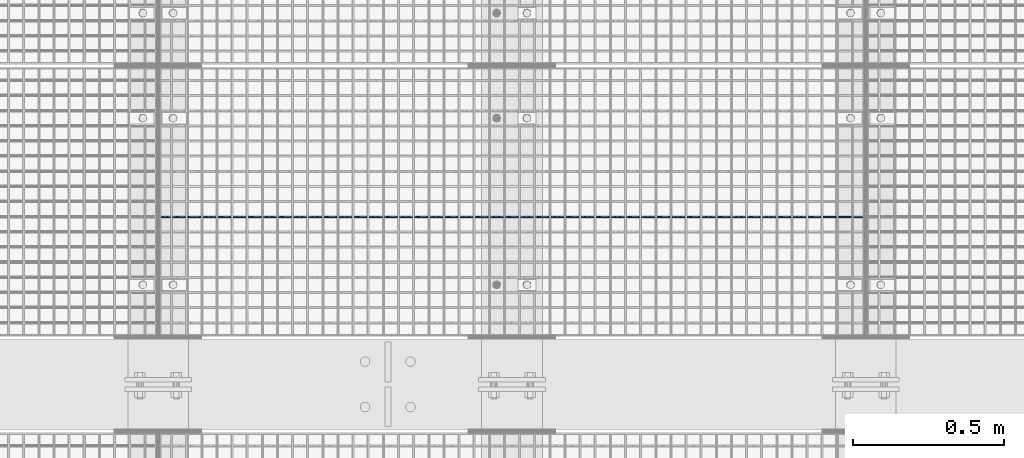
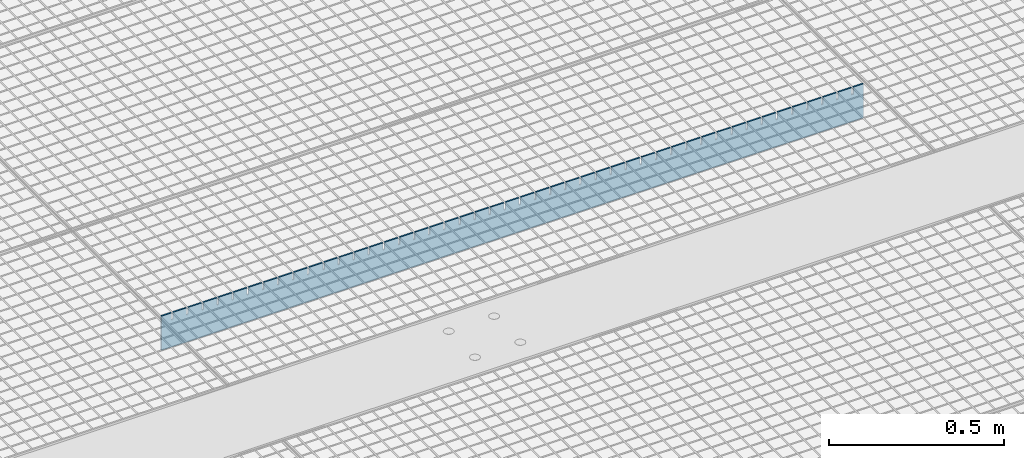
# One storey, part 355 of 1530: 1 beam.
"""IFC2X3 building model written with IfcOpenShell, lengths in millimetres."""

from ifc_helpers import new_model, si_unit, frame, origin_with_axes, place, context, subcontext, project, spatial, faceted_brep, material, type_object, element, save


model = new_model("IFC2X3")

# Units and contexts
model_context = context("Model", 3, precision=1e-05, world=origin_with_axes())
body_context = subcontext(model_context, "Body", "Model", "MODEL_VIEW")
ifc_project = project(units=[si_unit("LENGTHUNIT", "METRE", prefix="MILLI"), si_unit("AREAUNIT", "SQUARE_METRE"), si_unit("VOLUMEUNIT", "CUBIC_METRE"), si_unit("MASSUNIT", "GRAM", prefix="KILO"), si_unit("TIMEUNIT", "SECOND"), si_unit("PLANEANGLEUNIT", "RADIAN"), si_unit("SOLIDANGLEUNIT", "STERADIAN"), si_unit("THERMODYNAMICTEMPERATUREUNIT", "DEGREE_CELSIUS"), si_unit("LUMINOUSINTENSITYUNIT", "LUMEN")], contexts=[model_context])

# Site, building, storey
site_placement = place(None, origin_with_axes())
site = spatial("IfcSite", under=ifc_project, at=site_placement, Name="Brattvåg", CompositionType="ELEMENT")
building_placement = place(site_placement, origin_with_axes())
building = spatial("IfcBuilding", under=site, at=building_placement, Name="Undefined", CompositionType="ELEMENT")
storey_placement = place(building_placement, origin_with_axes())
storey = spatial("IfcBuildingStorey", under=building, at=storey_placement, Name="Undefined", CompositionType="ELEMENT", Elevation=0.0)

# Beam
ifc_material = material(Name="STEEL/S355J2")
beam_type = type_object("IfcBeamType", Name="120*5", PredefinedType="NOTDEFINED")
beam_placement = place(storey_placement, frame((7570.01317977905, 3552.9952545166, -59.9998626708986), z_axis=(0.0, 0.0, 1.0), x_axis=(-1.0, 1.99999855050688e-09, 0.0)))
element("IfcBeam", 1, at=beam_placement, inside=storey, type_object=beam_type, material=ifc_material, Name="GRATING", context=body_context, shape_type="Brep", body=[
    faceted_brep([(83.5790367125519, -2.50000000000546, 60.0000722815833), (83.5790367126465, -2.50000000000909, 35.0001373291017), (83.5790367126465, 2.50022888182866, 35.0001373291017), (83.5790367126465, 2.5, 60.0), (88.5790367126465, -2.50000000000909, 35.0001373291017), (88.5790367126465, 2.50022888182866, 35.0001373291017), (88.5790367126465, -2.50000000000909, 60.0001373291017), (88.5790367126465, 2.5, 60.0), (38.6284370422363, -2.50000000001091, 60.0001373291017), (38.6284370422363, 2.5, 60.0), (38.6284370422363, 2.49999999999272, 35.0001373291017), (38.6284370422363, -2.50000000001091, 35.0001373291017), (33.6284370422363, 2.49999999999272, 35.0001373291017), (33.6284370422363, -2.50000000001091, 35.0001373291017), (33.6284370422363, -2.5, 60.0), (33.6284370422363, 2.5, 60.0), (0.0, 2.5, 60.0), (0.0, -2.5, 60.0), (0.0, -2.5, -60.0), (0.0, 2.5, -60.0), (2319.99865722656, 2.5, -60.0), (2319.99865722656, -2.5, -60.0), (2319.99865722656, -2.5, 60.0), (2319.99865722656, 2.5, 60.0), (2286.37871932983, 2.5, 60.0), (2286.37871932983, -2.50000000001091, 60.0001373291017), (2286.37871932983, 2.49999999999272, 35.0001373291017), (2286.37871932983, -2.50000000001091, 35.0001373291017), (2281.37871932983, 2.49999999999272, 35.0001373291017), (2281.37871932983, -2.50000000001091, 35.0001373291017), (2281.37871932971, -2.50000000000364, 60.0000634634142), (2281.37871932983, 2.5, 60.0), (2236.42859649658, 2.5, 60.0), (2236.42859649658, -2.50000000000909, 60.0001373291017), (2236.42859649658, 2.50022888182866, 35.0001373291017), (2236.42859649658, -2.50000000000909, 35.0001373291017), (2231.42859649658, 2.50022888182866, 35.0001373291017), (2231.42859649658, -2.50000000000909, 35.0001373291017), (2231.42859649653, -2.50000000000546, 60.0000910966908), (2231.42859649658, 2.5, 60.0), (2186.47847366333, 2.5, 60.0), (2186.47847366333, -2.50000000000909, 60.0001373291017), (2186.47847366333, 2.50022888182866, 35.0001373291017), (2186.47847366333, -2.50000000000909, 35.0001373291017), (2181.47847366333, 2.50022888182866, 35.0001373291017), (2181.47847366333, -2.50000000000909, 35.0001373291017), (2181.47847366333, -2.5, 60.0), (2181.47847366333, 2.5, 60.0), (2136.52882766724, 2.5, 60.0), (2136.52882766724, -2.50000000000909, 60.0001373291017), (2136.52882766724, 2.50022888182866, 35.0001373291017), (2136.52882766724, -2.50000000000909, 35.0001373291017), (2131.52882766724, 2.50022888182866, 35.0001373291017), (2131.52882766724, -2.50000000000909, 35.0001373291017), (2131.52882766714, -2.50000000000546, 60.0000722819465), (2131.52882766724, 2.5, 60.0), (2086.57870483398, 2.5, 60.0), (2086.57870483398, -2.50000000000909, 60.0001373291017), (2086.57870483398, 2.50022888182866, 35.0001373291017), (2086.57870483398, -2.50000000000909, 35.0001373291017), (2081.57870483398, 2.50022888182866, 35.0001373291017), (2081.57870483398, -2.50000000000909, 35.0001373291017), (2081.57870483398, -2.5, 60.0), (2081.57870483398, 2.5, 60.0), (2036.62858200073, 2.5, 60.0), (2036.62858200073, -2.50000000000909, 60.0001373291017), (2036.62858200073, 2.50022888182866, 35.0001373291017), (2036.62858200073, -2.50000000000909, 35.0001373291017), (2031.62858200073, 2.50022888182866, 35.0001373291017), (2031.62858200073, -2.50000000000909, 35.0001373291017), (2031.62858200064, -2.50000000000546, 60.0000722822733), (2031.62858200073, 2.5, 60.0), (1986.67845916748, 2.5, 60.0), (1986.67845916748, -2.50000000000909, 60.0001373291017), (1986.67845916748, 2.50022888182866, 35.0001373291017), (1986.67845916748, -2.50000000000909, 35.0001373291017), (1981.67845916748, 2.50022888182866, 35.0001373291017), (1981.67845916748, -2.50000000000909, 35.0001373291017), (1981.67845916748, -2.5, 60.0), (1981.67845916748, 2.5, 60.0), (1936.72881317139, 2.5, 60.0), (1936.72881317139, -2.50000000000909, 60.0001373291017), (1936.72881317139, 2.50022888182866, 35.0001373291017), (1936.72881317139, -2.50000000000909, 35.0001373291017), (1931.72881317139, 2.50022888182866, 35.0001373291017), (1931.72881317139, -2.50000000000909, 35.0001373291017), (1931.72881317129, -2.50000000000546, 60.0000722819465), (1931.72881317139, 2.5, 60.0), (1886.77869033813, 2.5, 60.0), (1886.77869033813, -2.50000000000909, 60.0001373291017), (1886.77869033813, 2.50022888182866, 35.0001373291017), (1886.77869033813, -2.50000000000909, 35.0001373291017), (1881.77869033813, 2.50022888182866, 35.0001373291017), (1881.77869033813, -2.50000000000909, 35.0001373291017), (1881.77869033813, -2.5, 60.0), (1881.77869033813, 2.5, 60.0), (1836.82856750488, 2.5, 60.0), (1836.82856750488, -2.50000000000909, 60.0001373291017), (1836.82856750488, 2.50022888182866, 35.0001373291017), (1836.82856750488, -2.50000000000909, 35.0001373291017), (1831.82856750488, 2.50022888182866, 35.0001373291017), (1831.82856750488, -2.50000000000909, 35.0001373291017), (1831.82856750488, -2.5, 60.0), (1831.82856750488, 2.5, 60.0), (1786.87892150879, 2.5, 60.0), (1786.87892150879, -2.50000000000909, 60.0001373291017), (1786.87892150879, 2.50022888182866, 35.0001373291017), (1786.87892150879, -2.50000000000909, 35.0001373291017), (1781.87892150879, 2.50022888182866, 35.0001373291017), (1781.87892150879, -2.50000000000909, 35.0001373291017), (1781.87892150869, -2.50000000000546, 60.0000722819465), (1781.87892150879, 2.5, 60.0), (1736.92879867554, 2.5, 60.0), (1736.92879867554, -2.50000000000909, 60.0001373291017), (1736.92879867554, 2.50022888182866, 35.0001373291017), (1736.92879867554, -2.50000000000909, 35.0001373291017), (1731.92879867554, 2.50022888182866, 35.0001373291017), (1731.92879867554, -2.50000000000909, 35.0001373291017), (1731.92879867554, -2.5, 60.0), (1731.92879867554, 2.5, 60.0), (1686.97867584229, 2.5, 60.0), (1686.97867584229, -2.50000000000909, 60.0001373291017), (1686.97867584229, 2.50022888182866, 35.0001373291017), (1686.97867584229, -2.50000000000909, 35.0001373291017), (1681.97867584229, 2.50022888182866, 35.0001373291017), (1681.97867584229, -2.50000000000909, 35.0001373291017), (1681.97867584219, -2.50000000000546, 60.0000722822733), (1681.97867584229, 2.5, 60.0), (1637.02855300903, 2.5, 60.0), (1637.02855300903, -2.50000000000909, 60.0001373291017), (1637.02855300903, 2.50022888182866, 35.0001373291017), (1637.02855300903, -2.50000000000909, 35.0001373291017), (1632.02855300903, 2.50022888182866, 35.0001373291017), (1632.02855300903, -2.50000000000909, 35.0001373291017), (1632.02855300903, -2.5, 60.0), (1632.02855300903, 2.5, 60.0), (1587.07890701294, 2.5, 60.0), (1587.07890701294, -2.50000000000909, 60.0001373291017), (1587.07890701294, 2.50022888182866, 35.0001373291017), (1587.07890701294, -2.50000000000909, 35.0001373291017), (1582.07890701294, 2.50022888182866, 35.0001373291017), (1582.07890701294, -2.50000000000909, 35.0001373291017), (1582.07890701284, -2.50000000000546, 60.0000722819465), (1582.07890701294, 2.5, 60.0), (1537.12878417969, 2.5, 60.0), (1537.12878417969, -2.50000000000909, 60.0001373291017), (1537.12878417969, 2.50022888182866, 35.0001373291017), (1537.12878417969, -2.50000000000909, 35.0001373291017), (1532.12878417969, 2.50022888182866, 35.0001373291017), (1532.12878417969, -2.50000000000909, 35.0001373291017), (1532.12878417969, -2.5, 60.0), (1532.12878417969, 2.5, 60.0), (1487.17866134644, 2.5, 60.0), (1487.17866134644, -2.50000000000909, 60.0001373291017), (1487.17866134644, 2.50022888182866, 35.0001373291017), (1487.17866134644, -2.50000000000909, 35.0001373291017), (1482.17866134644, 2.50022888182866, 35.0001373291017), (1482.17866134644, -2.50000000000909, 35.0001373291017), (1482.17866134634, -2.50000000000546, 60.0000722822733), (1482.17866134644, 2.5, 60.0), (1437.22853851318, 2.5, 60.0), (1437.22853851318, -2.50000000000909, 60.0001373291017), (1437.22853851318, 2.50022888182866, 35.0001373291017), (1437.22853851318, -2.50000000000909, 35.0001373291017), (1432.22853851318, 2.50022888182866, 35.0001373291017), (1432.22853851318, -2.50000000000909, 35.0001373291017), (1432.22853851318, -2.5, 60.0), (1432.22853851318, 2.5, 60.0), (1387.27889251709, 2.5, 60.0), (1387.27889251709, -2.50000000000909, 60.0001373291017), (1387.27889251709, 2.50022888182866, 35.0001373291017), (1387.27889251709, -2.50000000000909, 35.0001373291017), (1382.27889251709, 2.50022888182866, 35.0001373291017), (1382.27889251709, -2.50000000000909, 35.0001373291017), (1382.278892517, -2.50000000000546, 60.0000722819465), (1382.27889251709, 2.5, 60.0), (1337.32876968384, 2.5, 60.0), (1337.32876968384, -2.50000000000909, 60.0001373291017), (1337.32876968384, 2.50022888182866, 35.0001373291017), (1337.32876968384, -2.50000000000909, 35.0001373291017), (1332.32876968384, 2.50022888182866, 35.0001373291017), (1332.32876968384, -2.50000000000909, 35.0001373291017), (1332.32876968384, -2.5, 60.0), (1332.32876968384, 2.5, 60.0), (1287.37864685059, 2.5, 60.0), (1287.37864685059, -2.50000000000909, 60.0001373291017), (1287.37864685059, 2.50022888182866, 35.0001373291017), (1287.37864685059, -2.50000000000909, 35.0001373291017), (1282.37864685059, 2.50022888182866, 35.0001373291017), (1282.37864685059, -2.50000000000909, 35.0001373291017), (1282.37864685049, -2.50000000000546, 60.0000722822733), (1282.37864685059, 2.5, 60.0), (1237.42852401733, 2.5, 60.0), (1237.42852401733, -2.50000000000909, 60.0001373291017), (1237.42852401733, 2.50022888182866, 35.0001373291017), (1237.42852401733, -2.50000000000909, 35.0001373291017), (1232.42852401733, 2.50022888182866, 35.0001373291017), (1232.42852401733, -2.50000000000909, 35.0001373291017), (1232.42852401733, -2.5, 60.0), (1232.42852401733, 2.5, 60.0), (1187.47887802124, 2.5, 60.0), (1187.47887802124, -2.50000000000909, 60.0001373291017), (1187.47887802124, 2.50022888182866, 35.0001373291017), (1187.47887802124, -2.50000000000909, 35.0001373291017), (1182.47887802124, 2.50022888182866, 35.0001373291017), (1182.47887802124, -2.50000000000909, 35.0001373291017), (1182.47887802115, -2.50000000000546, 60.0000722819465), (1182.47887802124, 2.5, 60.0), (1137.52875518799, 2.5, 60.0), (1137.52875518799, -2.50000000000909, 60.0001373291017), (1137.52875518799, 2.50022888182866, 35.0001373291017), (1137.52875518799, -2.50000000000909, 35.0001373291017), (1132.52875518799, 2.50022888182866, 35.0001373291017), (1132.52875518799, -2.50000000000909, 35.0001373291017), (1132.52875518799, -2.5, 60.0), (1132.52875518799, 2.5, 60.0), (1087.57863235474, 2.5, 60.0), (1087.57863235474, -2.50000000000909, 60.0001373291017), (1087.57863235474, 2.50022888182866, 35.0001373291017), (1087.57863235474, -2.50000000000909, 35.0001373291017), (1082.57863235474, 2.50022888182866, 35.0001373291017), (1082.57863235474, -2.50000000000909, 35.0001373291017), (1082.57863235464, -2.50000000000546, 60.0000722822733), (1082.57863235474, 2.5, 60.0), (1037.62850952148, 2.5, 60.0), (1037.62850952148, -2.50000000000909, 60.0001373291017), (1037.62850952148, 2.50022888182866, 35.0001373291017), (1037.62850952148, -2.50000000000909, 35.0001373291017), (1032.62850952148, 2.50022888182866, 35.0001373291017), (1032.62850952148, -2.50000000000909, 35.0001373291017), (1032.62850952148, -2.5, 60.0), (1032.62850952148, 2.5, 60.0), (987.678863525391, 2.5, 60.0), (987.678863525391, -2.50000000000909, 60.0001373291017), (987.678863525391, 2.50022888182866, 35.0001373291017), (987.678863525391, -2.50000000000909, 35.0001373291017), (982.678863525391, 2.50022888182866, 35.0001373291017), (982.678863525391, -2.50000000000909, 35.0001373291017), (982.678863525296, -2.50000000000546, 60.0000722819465), (982.678863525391, 2.5, 60.0), (937.728740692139, 2.5, 60.0), (937.728740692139, -2.50000000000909, 60.0001373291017), (937.728740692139, 2.50022888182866, 35.0001373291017), (937.728740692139, -2.50000000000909, 35.0001373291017), (932.728740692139, 2.50022888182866, 35.0001373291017), (932.728740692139, -2.50000000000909, 35.0001373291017), (932.728740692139, -2.5, 60.0), (932.728740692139, 2.5, 60.0), (887.778617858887, 2.5, 60.0), (887.778617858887, -2.50000000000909, 60.0001373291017), (887.778617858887, 2.50022888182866, 35.0001373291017), (887.778617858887, -2.50000000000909, 35.0001373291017), (882.778617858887, 2.50022888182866, 35.0001373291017), (882.778617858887, -2.50000000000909, 35.0001373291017), (882.778617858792, -2.50000000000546, 60.0000722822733), (882.778617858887, 2.5, 60.0), (837.828495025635, 2.5, 60.0), (837.828495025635, -2.50000000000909, 60.0001373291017), (837.828495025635, 2.50022888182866, 35.0001373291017), (837.828495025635, -2.50000000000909, 35.0001373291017), (832.828495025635, 2.50022888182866, 35.0001373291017), (832.828495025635, -2.50000000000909, 35.0001373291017), (832.828495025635, -2.5, 60.0), (832.828495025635, 2.5, 60.0), (787.878849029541, 2.5, 60.0), (787.878849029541, -2.50000000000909, 60.0001373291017), (787.878849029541, 2.50022888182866, 35.0001373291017), (787.878849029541, -2.50000000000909, 35.0001373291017), (782.878849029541, 2.50022888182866, 35.0001373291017), (782.878849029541, -2.50000000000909, 35.0001373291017), (782.878849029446, -2.50000000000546, 60.0000722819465), (782.878849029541, 2.5, 60.0), (737.928726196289, 2.5, 60.0), (737.928726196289, -2.50000000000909, 60.0001373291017), (737.928726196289, 2.50022888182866, 35.0001373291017), (737.928726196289, -2.50000000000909, 35.0001373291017), (732.928726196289, 2.50022888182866, 35.0001373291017), (732.928726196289, -2.50000000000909, 35.0001373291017), (732.928726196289, -2.5, 60.0), (732.928726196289, 2.5, 60.0), (687.978603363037, 2.5, 60.0), (687.978603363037, -2.50000000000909, 60.0001373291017), (687.978603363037, 2.50022888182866, 35.0001373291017), (687.978603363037, -2.50000000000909, 35.0001373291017), (682.978603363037, 2.50022888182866, 35.0001373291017), (682.978603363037, -2.50000000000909, 35.0001373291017), (682.978603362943, -2.50000000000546, 60.0000722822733), (682.978603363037, 2.5, 60.0), (638.028480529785, 2.5, 60.0), (638.028480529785, -2.50000000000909, 60.0001373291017), (638.028480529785, 2.50022888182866, 35.0001373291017), (638.028480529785, -2.50000000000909, 35.0001373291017), (633.028480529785, 2.50022888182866, 35.0001373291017), (633.028480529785, -2.50000000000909, 35.0001373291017), (633.028480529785, -2.5, 60.0), (633.028480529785, 2.5, 60.0), (588.078834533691, 2.5, 60.0), (588.078834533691, -2.50000000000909, 60.0001373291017), (588.078834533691, 2.50022888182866, 35.0001373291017), (588.078834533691, -2.50000000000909, 35.0001373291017), (583.078834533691, 2.50022888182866, 35.0001373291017), (583.078834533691, -2.50000000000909, 35.0001373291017), (583.078834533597, -2.50000000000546, 60.0000722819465), (583.078834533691, 2.5, 60.0), (538.128711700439, 2.5, 60.0), (538.128711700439, -2.50000000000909, 60.0001373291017), (538.128711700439, 2.50022888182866, 35.0001373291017), (538.128711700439, -2.50000000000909, 35.0001373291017), (533.128711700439, 2.50022888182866, 35.0001373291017), (533.128711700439, -2.50000000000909, 35.0001373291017), (533.128711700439, -2.5, 60.0), (533.128711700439, 2.5, 60.0), (488.178588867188, 2.5, 60.0), (488.178588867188, -2.50000000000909, 60.0001373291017), (488.178588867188, 2.50022888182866, 35.0001373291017), (488.178588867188, -2.50000000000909, 35.0001373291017), (483.178588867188, 2.50022888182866, 35.0001373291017), (483.178588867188, -2.50000000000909, 35.0001373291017), (483.178588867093, -2.50000000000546, 60.0000722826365), (483.178588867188, 2.5, 60.0), (438.228942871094, 2.5, 60.0), (438.228942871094, -2.50000000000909, 60.0001373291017), (438.228942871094, 2.50022888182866, 35.0001373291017), (438.228942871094, -2.50000000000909, 35.0001373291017), (433.228942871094, 2.50022888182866, 35.0001373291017), (433.228942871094, -2.50000000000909, 35.0001373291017), (433.228942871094, -2.5, 60.0), (433.228942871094, 2.5, 60.0), (388.278820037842, 2.5, 60.0), (388.278820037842, -2.50000000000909, 60.0001373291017), (388.278820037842, 2.50022888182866, 35.0001373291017), (388.278820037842, -2.50000000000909, 35.0001373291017), (383.278820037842, 2.50022888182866, 35.0001373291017), (383.278820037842, -2.50000000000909, 35.0001373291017), (383.278820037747, -2.50000000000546, 60.0000722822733), (383.278820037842, 2.5, 60.0), (338.32869720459, 2.5, 60.0), (338.32869720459, -2.50000000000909, 60.0001373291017), (338.32869720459, 2.50022888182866, 35.0001373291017), (338.32869720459, -2.50000000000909, 35.0001373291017), (333.32869720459, 2.50022888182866, 35.0001373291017), (333.32869720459, -2.50000000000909, 35.0001373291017), (333.32869720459, -2.5, 60.0), (333.32869720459, 2.5, 60.0), (288.378574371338, 2.5, 60.0), (288.378574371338, -2.50000000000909, 60.0001373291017), (288.378574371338, 2.50022888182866, 35.0001373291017), (288.378574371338, -2.50000000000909, 35.0001373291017), (283.378574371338, 2.50022888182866, 35.0001373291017), (283.378574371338, -2.50000000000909, 35.0001373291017), (283.378574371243, -2.50000000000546, 60.0000722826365), (283.378574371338, 2.5, 60.0), (238.428928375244, 2.5, 60.0), (238.428928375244, -2.50000000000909, 60.0001373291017), (238.428928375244, 2.50022888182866, 35.0001373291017), (238.428928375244, -2.50000000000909, 35.0001373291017), (233.428928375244, 2.50022888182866, 35.0001373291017), (233.428928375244, -2.50000000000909, 35.0001373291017), (233.428928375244, -2.5, 60.0), (233.428928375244, 2.5, 60.0), (188.478328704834, 2.5, 60.0), (188.478328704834, -2.50000000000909, 60.0001373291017), (188.478328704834, 2.50022888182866, 35.0001373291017), (188.478328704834, -2.50000000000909, 35.0001373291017), (183.478328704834, 2.50022888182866, 35.0001373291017), (183.478328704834, -2.50000000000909, 35.0001373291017), (183.478328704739, -2.50000000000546, 60.0000722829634), (183.478328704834, 2.5, 60.0), (138.52868270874, 2.5, 60.0), (138.52868270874, -2.50000000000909, 60.0001373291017), (138.52868270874, 2.50022888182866, 35.0001373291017), (138.52868270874, -2.50000000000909, 35.0001373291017), (133.52868270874, 2.50022888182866, 35.0001373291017), (133.52868270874, -2.50000000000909, 35.0001373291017), (133.52868270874, -2.5, 60.0), (133.52868270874, 2.5, 60.0)], [[[0, 1, 2, 3]], [[4, 5, 2, 1]], [[6, 7, 5, 4]], [[8, 9, 10, 11]], [[11, 10, 12, 13]], [[14, 13, 12, 15]], [[16, 17, 14, 15]], [[18, 17, 16, 19]], [[18, 19, 20, 21]], [[22, 21, 20, 23]], [[22, 23, 24, 25]], [[25, 24, 26, 27]], [[27, 26, 28, 29]], [[30, 29, 28, 31]], [[32, 33, 30, 31]], [[33, 32, 34, 35]], [[35, 34, 36, 37]], [[38, 37, 36, 39]], [[40, 41, 38, 39]], [[41, 40, 42, 43]], [[43, 42, 44, 45]], [[46, 45, 44, 47]], [[46, 47, 48, 49]], [[49, 48, 50, 51]], [[51, 50, 52, 53]], [[54, 53, 52, 55]], [[56, 57, 54, 55]], [[57, 56, 58, 59]], [[59, 58, 60, 61]], [[62, 61, 60, 63]], [[62, 63, 64, 65]], [[65, 64, 66, 67]], [[67, 66, 68, 69]], [[70, 69, 68, 71]], [[72, 73, 70, 71]], [[73, 72, 74, 75]], [[75, 74, 76, 77]], [[78, 77, 76, 79]], [[78, 79, 80, 81]], [[81, 80, 82, 83]], [[83, 82, 84, 85]], [[86, 85, 84, 87]], [[88, 89, 86, 87]], [[89, 88, 90, 91]], [[91, 90, 92, 93]], [[94, 93, 92, 95]], [[94, 95, 96, 97]], [[97, 96, 98, 99]], [[99, 98, 100, 101]], [[102, 101, 100, 103]], [[102, 103, 104, 105]], [[105, 104, 106, 107]], [[107, 106, 108, 109]], [[110, 109, 108, 111]], [[112, 113, 110, 111]], [[113, 112, 114, 115]], [[115, 114, 116, 117]], [[118, 117, 116, 119]], [[118, 119, 120, 121]], [[121, 120, 122, 123]], [[123, 122, 124, 125]], [[126, 125, 124, 127]], [[128, 129, 126, 127]], [[129, 128, 130, 131]], [[131, 130, 132, 133]], [[134, 133, 132, 135]], [[134, 135, 136, 137]], [[137, 136, 138, 139]], [[139, 138, 140, 141]], [[142, 141, 140, 143]], [[144, 145, 142, 143]], [[145, 144, 146, 147]], [[147, 146, 148, 149]], [[150, 149, 148, 151]], [[150, 151, 152, 153]], [[153, 152, 154, 155]], [[155, 154, 156, 157]], [[158, 157, 156, 159]], [[160, 161, 158, 159]], [[161, 160, 162, 163]], [[163, 162, 164, 165]], [[166, 165, 164, 167]], [[166, 167, 168, 169]], [[169, 168, 170, 171]], [[171, 170, 172, 173]], [[174, 173, 172, 175]], [[176, 177, 174, 175]], [[177, 176, 178, 179]], [[179, 178, 180, 181]], [[182, 181, 180, 183]], [[182, 183, 184, 185]], [[185, 184, 186, 187]], [[187, 186, 188, 189]], [[190, 189, 188, 191]], [[192, 193, 190, 191]], [[193, 192, 194, 195]], [[195, 194, 196, 197]], [[198, 197, 196, 199]], [[198, 199, 200, 201]], [[201, 200, 202, 203]], [[203, 202, 204, 205]], [[206, 205, 204, 207]], [[208, 209, 206, 207]], [[209, 208, 210, 211]], [[211, 210, 212, 213]], [[214, 213, 212, 215]], [[214, 215, 216, 217]], [[217, 216, 218, 219]], [[219, 218, 220, 221]], [[222, 221, 220, 223]], [[224, 225, 222, 223]], [[225, 224, 226, 227]], [[227, 226, 228, 229]], [[230, 229, 228, 231]], [[230, 231, 232, 233]], [[233, 232, 234, 235]], [[235, 234, 236, 237]], [[238, 237, 236, 239]], [[240, 241, 238, 239]], [[241, 240, 242, 243]], [[243, 242, 244, 245]], [[246, 245, 244, 247]], [[246, 247, 248, 249]], [[249, 248, 250, 251]], [[251, 250, 252, 253]], [[254, 253, 252, 255]], [[256, 257, 254, 255]], [[257, 256, 258, 259]], [[259, 258, 260, 261]], [[262, 261, 260, 263]], [[262, 263, 264, 265]], [[265, 264, 266, 267]], [[267, 266, 268, 269]], [[270, 269, 268, 271]], [[272, 273, 270, 271]], [[273, 272, 274, 275]], [[275, 274, 276, 277]], [[278, 277, 276, 279]], [[278, 279, 280, 281]], [[281, 280, 282, 283]], [[283, 282, 284, 285]], [[286, 285, 284, 287]], [[288, 289, 286, 287]], [[289, 288, 290, 291]], [[291, 290, 292, 293]], [[294, 293, 292, 295]], [[294, 295, 296, 297]], [[297, 296, 298, 299]], [[299, 298, 300, 301]], [[302, 301, 300, 303]], [[304, 305, 302, 303]], [[305, 304, 306, 307]], [[307, 306, 308, 309]], [[310, 309, 308, 311]], [[310, 311, 312, 313]], [[313, 312, 314, 315]], [[315, 314, 316, 317]], [[318, 317, 316, 319]], [[320, 321, 318, 319]], [[321, 320, 322, 323]], [[323, 322, 324, 325]], [[326, 325, 324, 327]], [[326, 327, 328, 329]], [[329, 328, 330, 331]], [[331, 330, 332, 333]], [[334, 333, 332, 335]], [[336, 337, 334, 335]], [[337, 336, 338, 339]], [[339, 338, 340, 341]], [[342, 341, 340, 343]], [[342, 343, 344, 345]], [[345, 344, 346, 347]], [[347, 346, 348, 349]], [[350, 349, 348, 351]], [[352, 353, 350, 351]], [[353, 352, 354, 355]], [[355, 354, 356, 357]], [[358, 357, 356, 359]], [[358, 359, 360, 361]], [[361, 360, 362, 363]], [[363, 362, 364, 365]], [[366, 365, 364, 367]], [[368, 369, 366, 367]], [[369, 368, 370, 371]], [[371, 370, 372, 373]], [[374, 373, 372, 375]], [[1, 0, 8, 11, 13, 14, 17, 18, 21, 22, 25, 27, 29, 30, 33, 35, 37, 38, 41, 43, 45, 46, 49, 51, 53, 54, 57, 59, 61, 62, 65, 67, 69, 70, 73, 75, 77, 78, 81, 83, 85, 86, 89, 91, 93, 94, 97, 99, 101, 102, 105, 107, 109, 110, 113, 115, 117, 118, 121, 123, 125, 126, 129, 131, 133, 134, 137, 139, 141, 142, 145, 147, 149, 150, 153, 155, 157, 158, 161, 163, 165, 166, 169, 171, 173, 174, 177, 179, 181, 182, 185, 187, 189, 190, 193, 195, 197, 198, 201, 203, 205, 206, 209, 211, 213, 214, 217, 219, 221, 222, 225, 227, 229, 230, 233, 235, 237, 238, 241, 243, 245, 246, 249, 251, 253, 254, 257, 259, 261, 262, 265, 267, 269, 270, 273, 275, 277, 278, 281, 283, 285, 286, 289, 291, 293, 294, 297, 299, 301, 302, 305, 307, 309, 310, 313, 315, 317, 318, 321, 323, 325, 326, 329, 331, 333, 334, 337, 339, 341, 342, 345, 347, 349, 350, 353, 355, 357, 358, 361, 363, 365, 366, 369, 371, 373, 374, 6, 4]], [[9, 8, 0, 3]], [[375, 372, 370, 368, 367, 364, 362, 360, 359, 356, 354, 352, 351, 348, 346, 344, 343, 340, 338, 336, 335, 332, 330, 328, 327, 324, 322, 320, 319, 316, 314, 312, 311, 308, 306, 304, 303, 300, 298, 296, 295, 292, 290, 288, 287, 284, 282, 280, 279, 276, 274, 272, 271, 268, 266, 264, 263, 260, 258, 256, 255, 252, 250, 248, 247, 244, 242, 240, 239, 236, 234, 232, 231, 228, 226, 224, 223, 220, 218, 216, 215, 212, 210, 208, 207, 204, 202, 200, 199, 196, 194, 192, 191, 188, 186, 184, 183, 180, 178, 176, 175, 172, 170, 168, 167, 164, 162, 160, 159, 156, 154, 152, 151, 148, 146, 144, 143, 140, 138, 136, 135, 132, 130, 128, 127, 124, 122, 120, 119, 116, 114, 112, 111, 108, 106, 104, 103, 100, 98, 96, 95, 92, 90, 88, 87, 84, 82, 80, 79, 76, 74, 72, 71, 68, 66, 64, 63, 60, 58, 56, 55, 52, 50, 48, 47, 44, 42, 40, 39, 36, 34, 32, 31, 28, 26, 24, 23, 20, 19, 16, 15, 12, 10, 9, 3, 2, 5, 7]], [[374, 375, 7, 6]]]),
])

save(model, "model.ifc")
